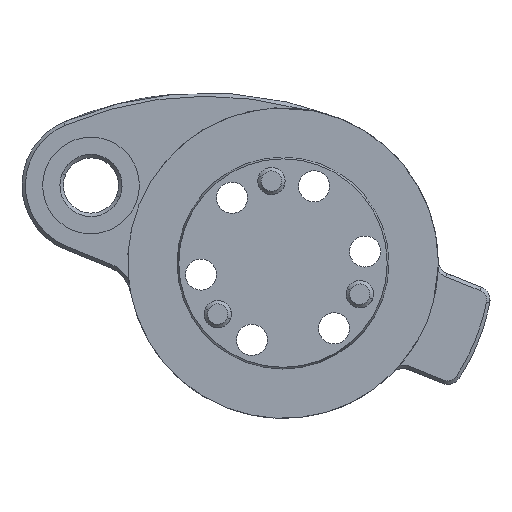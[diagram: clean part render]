
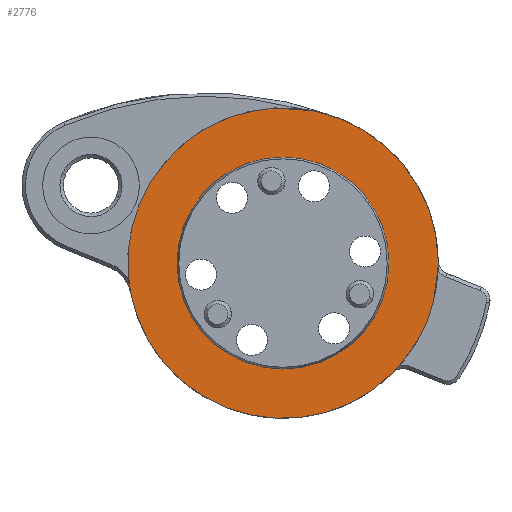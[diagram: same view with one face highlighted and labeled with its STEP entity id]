
A CAD part, left-side view. The second image highlights one B-rep face of the part: STEP entity #2776.
In plain terms, the highlighted planar face has unit normal (-1, 0, 0).
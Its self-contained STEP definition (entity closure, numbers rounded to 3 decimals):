
#569=CARTESIAN_POINT('',(-112.4,-3.,-553.));
#570=DIRECTION('',(1.,0.,0.));
#571=DIRECTION('',(0.,-0.927,-0.375));
#572=AXIS2_PLACEMENT_3D('',#569,#570,#571);
#574=CARTESIAN_POINT('',(-112.4,-3.,-553.));
#575=DIRECTION('',(1.,0.,0.));
#576=DIRECTION('',(0.,-0.709,-0.705));
#577=AXIS2_PLACEMENT_3D('',#574,#575,#576);
#579=CARTESIAN_POINT('',(-112.4,-3.,-553.));
#580=DIRECTION('',(1.,0.,0.));
#581=DIRECTION('',(0.,0.981,-0.192));
#582=AXIS2_PLACEMENT_3D('',#579,#580,#581);
#584=CARTESIAN_POINT('',(-112.4,-3.,-553.));
#585=DIRECTION('',(1.,0.,0.));
#586=DIRECTION('',(0.,0.927,0.375));
#587=AXIS2_PLACEMENT_3D('',#584,#585,#586);
#589=CARTESIAN_POINT('',(-112.4,-3.,-553.));
#590=DIRECTION('',(1.,0.,0.));
#591=DIRECTION('',(0.,-0.375,0.927));
#592=AXIS2_PLACEMENT_3D('',#589,#590,#591);
#594=CARTESIAN_POINT('',(-112.4,-3.,-553.));
#595=DIRECTION('',(1.,0.,0.));
#596=DIRECTION('',(0.,-1.,0.014));
#597=AXIS2_PLACEMENT_3D('',#594,#595,#596);
#599=CARTESIAN_POINT('',(-112.4,-3.,-553.));
#600=DIRECTION('',(-1.,0.,0.));
#601=DIRECTION('',(0.,0.,1.));
#602=AXIS2_PLACEMENT_3D('',#599,#600,#601);
#604=CARTESIAN_POINT('',(-112.4,-3.,-553.));
#605=DIRECTION('',(-1.,0.,0.));
#606=DIRECTION('',(0.,0.,-1.));
#607=AXIS2_PLACEMENT_3D('',#604,#605,#606);
#1827=CARTESIAN_POINT('',(-112.4,19.082,-557.315));
#1828=VERTEX_POINT('',#1827);
#1829=CARTESIAN_POINT('',(-112.4,-18.961,-568.858));
#1830=VERTEX_POINT('',#1829);
#1845=CARTESIAN_POINT('',(-112.4,-25.498,-552.68));
#1846=VERTEX_POINT('',#1845);
#1847=CARTESIAN_POINT('',(-112.4,-11.429,-532.138));
#1848=VERTEX_POINT('',#1847);
#1861=CARTESIAN_POINT('',(-112.4,-23.862,-561.429));
#1862=VERTEX_POINT('',#1861);
#1897=CARTESIAN_POINT('',(-112.4,17.862,-544.571));
#1898=VERTEX_POINT('',#1897);
#1899=CARTESIAN_POINT('',(-112.4,-3.,-537.651));
#1900=CARTESIAN_POINT('',(-112.4,-3.,-568.349));
#1901=VERTEX_POINT('',#1899);
#1902=VERTEX_POINT('',#1900);
#2755=CARTESIAN_POINT('',(-112.4,-3.,-553.));
#2756=DIRECTION('',(-1.,0.,0.));
#2757=DIRECTION('',(0.,0.927,0.375));
#2758=AXIS2_PLACEMENT_3D('',#2755,#2756,#2757);
#2759=PLANE('',#2758);
#2760=ORIENTED_EDGE('',*,*,#2533,.T.);
#2761=ORIENTED_EDGE('',*,*,#2359,.T.);
#2763=ORIENTED_EDGE('',*,*,#2762,.T.);
#2765=ORIENTED_EDGE('',*,*,#2764,.T.);
#2766=ORIENTED_EDGE('',*,*,#2478,.T.);
#2767=ORIENTED_EDGE('',*,*,#2535,.T.);
#2768=EDGE_LOOP('',(#2760,#2761,#2763,#2765,#2766,#2767));
#2769=FACE_OUTER_BOUND('',#2768,.F.);
#2771=ORIENTED_EDGE('',*,*,#2770,.T.);
#2773=ORIENTED_EDGE('',*,*,#2772,.T.);
#2774=EDGE_LOOP('',(#2771,#2773));
#2775=FACE_BOUND('',#2774,.F.);
#2776=ADVANCED_FACE('',(#2769,#2775),#2759,.T.);
#573=CIRCLE('',#572,22.5);
#578=CIRCLE('',#577,22.5);
#583=CIRCLE('',#582,22.5);
#588=CIRCLE('',#587,22.5);
#593=CIRCLE('',#592,22.5);
#598=CIRCLE('',#597,22.5);
#603=CIRCLE('',#602,15.349);
#608=CIRCLE('',#607,15.349);
#2359=EDGE_CURVE('',#1830,#1828,#578,.T.);
#2478=EDGE_CURVE('',#1848,#1846,#593,.T.);
#2533=EDGE_CURVE('',#1862,#1830,#573,.T.);
#2535=EDGE_CURVE('',#1846,#1862,#598,.T.);
#2762=EDGE_CURVE('',#1828,#1898,#583,.T.);
#2764=EDGE_CURVE('',#1898,#1848,#588,.T.);
#2770=EDGE_CURVE('',#1901,#1902,#603,.T.);
#2772=EDGE_CURVE('',#1902,#1901,#608,.T.);
